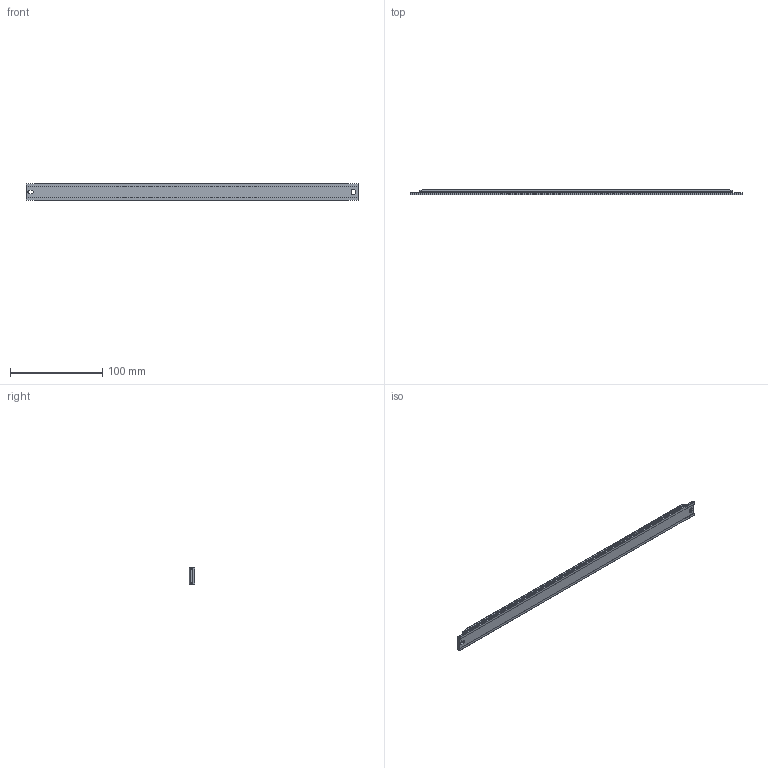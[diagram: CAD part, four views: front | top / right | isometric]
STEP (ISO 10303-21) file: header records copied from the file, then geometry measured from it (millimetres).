
FILE_DESCRIPTION (( 'STEP AP214' ), '1' );
FILE_NAME ('HLMScale.ScaleLength360.STEP', '2023-02-07T05:55:38', ( '' ), ( '' ), 'SwSTEP 2.0', 'SolidWorks 2020', '' );
FILE_SCHEMA (( 'AUTOMOTIVE_DESIGN' ));
Length unit declared in the file: millimetre
Products named in the file (1): HLMScale.ScaleLength360
Bounding box: 360 x 6.08 x 18 mm (x, y, z)
Volume: 35095.3 mm3; surface area: 19730.8 mm2
Topology: 1 solids, 1 shells, 56 faces, 149 edges, 98 vertices
Faces by surface type: plane 31, cylinder 25
Entity records: 1857 total; most frequent: CARTESIAN_POINT 412, ORIENTED_EDGE 298, DIRECTION 285, EDGE_CURVE 149, LINE 103, VECTOR 103, VERTEX_POINT 98, AXIS2_PLACEMENT_3D 91
